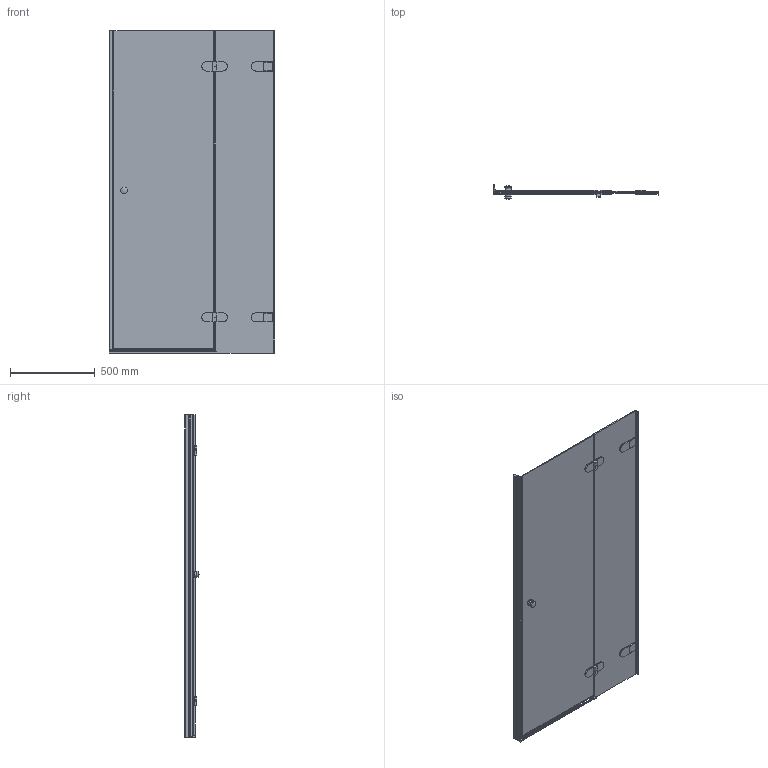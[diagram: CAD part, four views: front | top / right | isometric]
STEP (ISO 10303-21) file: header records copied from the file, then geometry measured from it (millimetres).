
FILE_DESCRIPTION(/* description */ (''),/* implementation_level */ '2;1');
FILE_NAME(/* name */ 'E:\Работа\Сергей\Душевые кабинки\! Работа\3\LUX DOOR GK-002A-2522A\LUX DOOR GK-002A-2522A правая модель\LUX DOOR GK-002A-2522A ПРАВАЯ-3D.stp',/* time_stamp */ '2017-09-21T20:32:01+03:00',/* author */ ('PC'),/* organization */ (''),/* preprocessor_version */ 'ST-DEVELOPER v15.2',/* originating_system */ 'Autodesk Inventor 2014',/* authorisation */ '');
FILE_SCHEMA (('AUTOMOTIVE_DESIGN { 1 0 10303 214 3 1 1 }'));
Length unit declared in the file: millimetre
Products named in the file (1): LUX DOOR GK-002A-2522A ПРАВАЯ-
3D
Bounding box: 977.36 x 83 x 1901 mm (x, y, z)
Volume: 13742816.9 mm3; surface area: 4247902 mm2
Topology: 3 solids, 5 shells, 587 faces, 1436 edges, 879 vertices
Faces by surface type: plane 414, cylinder 156, torus 11, sphere 3, bspline 3
Full cylindrical faces by diameter (mm): 38 x4
Entity records: 17883 total; most frequent: CARTESIAN_POINT 3399, ORIENTED_EDGE 2866, DIRECTION 2838, EDGE_CURVE 1429, LINE 1094, VECTOR 1094, VERTEX_POINT 879, AXIS2_PLACEMENT_3D 872
